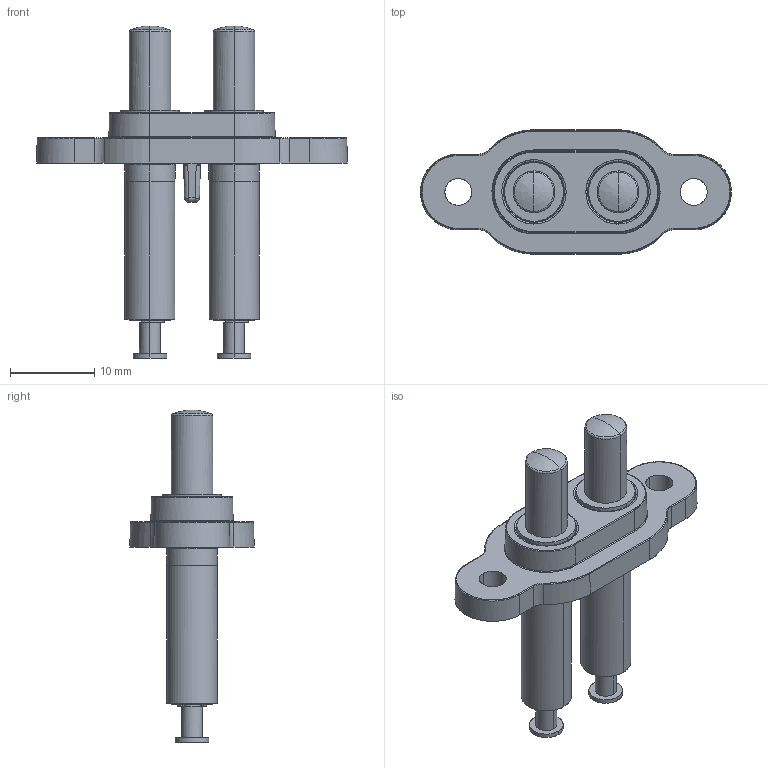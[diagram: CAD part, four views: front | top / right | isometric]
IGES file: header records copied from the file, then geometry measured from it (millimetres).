
Start section: SolidWorks IGES file using analytic representation for surfaces
Global section: file name: \\CODA-VM-SBS\RedirectedFolders\georged\My Documents\Coda\ICA Connectors\ICA-U2-SCT.IGS; native system: SolidWorks 2022; preprocessor: SolidWorks 2022; author: GeorgeD; date: 230208.104213; units: millimetre
Bounding box: 37 x 14.8 x 39.5 mm (x, y, z)
Surface area: 3102.9 mm2 (no closed solid volume)
Topology: 0 solids, 0 shells, 276 faces, 2598 edges, 2591 vertices
Faces by surface type: bspline 276
